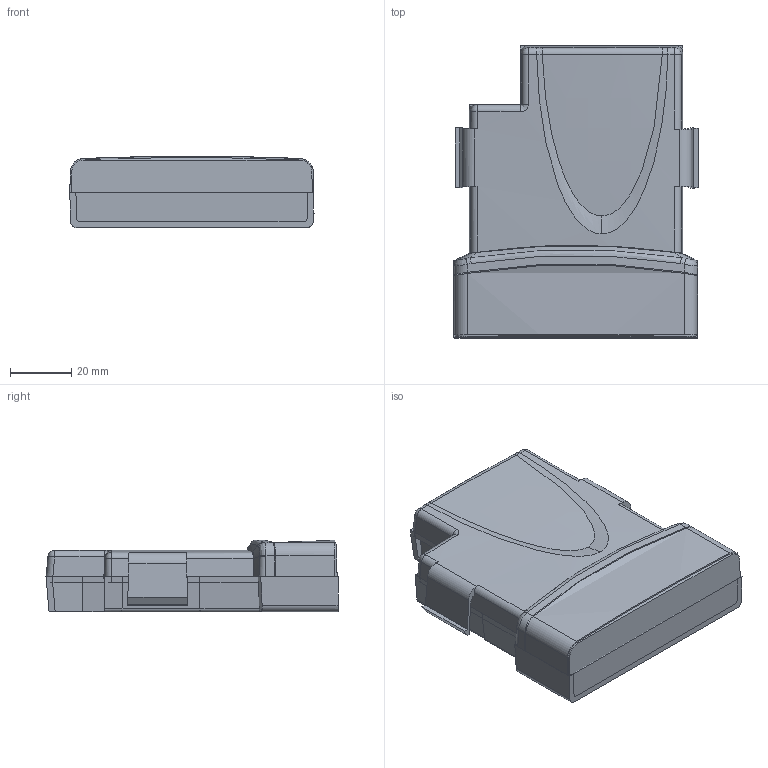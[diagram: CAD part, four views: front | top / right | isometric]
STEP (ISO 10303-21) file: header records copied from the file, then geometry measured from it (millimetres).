
FILE_DESCRIPTION((''),'2;1');
FILE_NAME('PK-SEQ-SK-B-SP-OPTION','2006-12-19T',('summne01'),(''),'PRO/ENGINEER BY PARAMETRIC TECHNOLOGY CORPORATION, 2006320','PRO/ENGINEER BY PARAMETRIC TECHNOLOGY CORPORATION, 2006320','');
FILE_SCHEMA(('CONFIG_CONTROL_DESIGN'));
Length unit declared in the file: millimetre
Products named in the file (1): PK-SEQ-SK-B-SP-OPTION
Bounding box: 80.13 x 95.72 x 23.45 mm (x, y, z)
Volume: 74262.1 mm3; surface area: 33642.1 mm2
Topology: 1 solids, 3 shells, 122 faces, 399 edges, 271 vertices
Faces by surface type: plane 60, cylinder 35, bspline 16, torus 6, sphere 3, cone 2
Entity records: 5727 total; most frequent: CARTESIAN_POINT 2569, ORIENTED_EDGE 686, DIRECTION 505, EDGE_CURVE 399, VERTEX_POINT 271, VECTOR 225, LINE 225, B_SPLINE_CURVE_WITH_KNOTS 141
